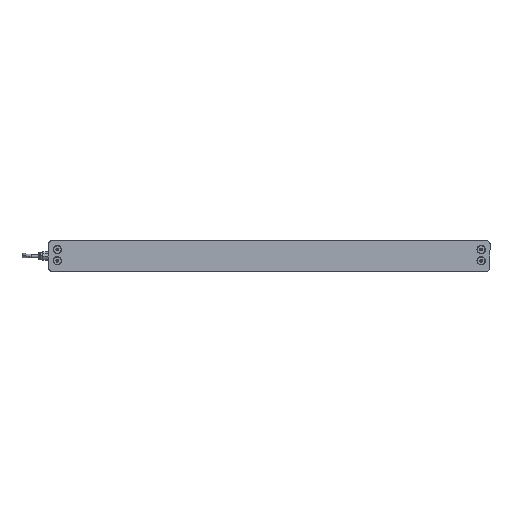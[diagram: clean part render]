
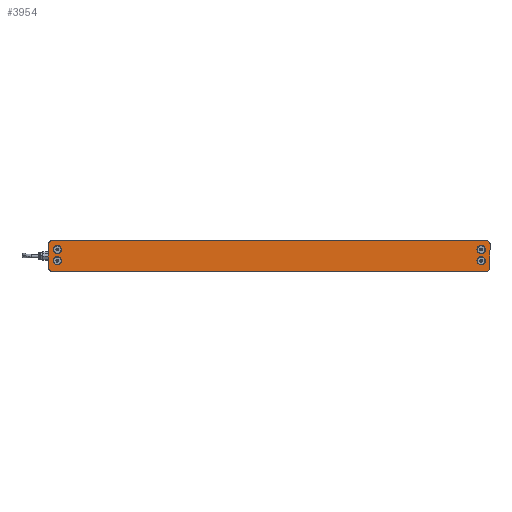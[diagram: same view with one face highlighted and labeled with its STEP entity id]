
A CAD part, left-side view. The second image highlights one B-rep face of the part: STEP entity #3954.
In plain terms, the highlighted planar face has unit normal (-1, 0, 0) as drawn and (0, 0, -1) by its records, which use the part's own axes.
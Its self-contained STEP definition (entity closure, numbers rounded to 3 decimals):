
#68 = DIRECTION ( 'NONE',  ( -1., 0., 0. ) ) ;
#292 = DIRECTION ( 'NONE',  ( -1., 0., 0. ) ) ;
#746 = VERTEX_POINT ( 'NONE', #8460 ) ;
#754 = CARTESIAN_POINT ( 'NONE',  ( -286.9, 8.5, 0. ) ) ;
#790 = EDGE_LOOP ( 'NONE', ( #1041, #5103 ) ) ;
#917 = VECTOR ( 'NONE', #4963, 1000. ) ;
#923 = EDGE_LOOP ( 'NONE', ( #3718, #8843 ) ) ;
#1041 = ORIENTED_EDGE ( 'NONE', *, *, #15722, .F. ) ;
#1164 = CARTESIAN_POINT ( 'NONE',  ( -293., 16., 0. ) ) ;
#1345 = CARTESIAN_POINT ( 'NONE',  ( -275.7, -6.3, 0. ) ) ;
#1376 = AXIS2_PLACEMENT_3D ( 'NONE', #2964, #9027, #14868 ) ;
#1732 = DIRECTION ( 'NONE',  ( -1., 0., 0. ) ) ;
#1938 = DIRECTION ( 'NONE',  ( 0., 0., -1. ) ) ;
#1998 = VERTEX_POINT ( 'NONE', #1345 ) ;
#2009 = DIRECTION ( 'NONE',  ( -1., 0., 0. ) ) ;
#2127 = VECTOR ( 'NONE', #14044, 1000. ) ;
#2204 = EDGE_CURVE ( 'NONE', #11486, #13070, #10215, .T. ) ;
#2220 = DIRECTION ( 'NONE',  ( -1., 0., 0. ) ) ;
#2420 = ORIENTED_EDGE ( 'NONE', *, *, #15041, .F. ) ;
#2697 = EDGE_CURVE ( 'NONE', #19551, #5183, #17800, .T. ) ;
#2761 = AXIS2_PLACEMENT_3D ( 'NONE', #19582, #2950, #68 ) ;
#2770 = AXIS2_PLACEMENT_3D ( 'NONE', #5096, #17175, #2220 ) ;
#2792 = DIRECTION ( 'NONE',  ( -1., 0., 0. ) ) ;
#2950 = DIRECTION ( 'NONE',  ( 0., 0., 1. ) ) ;
#2964 = CARTESIAN_POINT ( 'NONE',  ( 289., 16., 0. ) ) ;
#3021 = VERTEX_POINT ( 'NONE', #6205 ) ;
#3041 = ORIENTED_EDGE ( 'NONE', *, *, #6439, .F. ) ;
#3320 = CARTESIAN_POINT ( 'NONE',  ( 293., 16., 0. ) ) ;
#3477 = CIRCLE ( 'NONE', #14549, 5.6 ) ;
#3652 = CARTESIAN_POINT ( 'NONE',  ( 289., 20., 0. ) ) ;
#3718 = ORIENTED_EDGE ( 'NONE', *, *, #16125, .F. ) ;
#3747 = CARTESIAN_POINT ( 'NONE',  ( -289., 20., 0. ) ) ;
#3954 = ADVANCED_FACE ( 'NONE', ( #7908, #11902, #16550, #10310, #8832 ), #11997, .T. ) ;
#4316 = LINE ( 'NONE', #8889, #13196 ) ;
#4531 = CARTESIAN_POINT ( 'NONE',  ( 289., -20., 0. ) ) ;
#4642 = CIRCLE ( 'NONE', #10730, 5.6 ) ;
#4864 = VERTEX_POINT ( 'NONE', #5457 ) ;
#4963 = DIRECTION ( 'NONE',  ( 0., 1., 0. ) ) ;
#5096 = CARTESIAN_POINT ( 'NONE',  ( 281.3, 8.5, 0. ) ) ;
#5103 = ORIENTED_EDGE ( 'NONE', *, *, #2697, .F. ) ;
#5183 = VERTEX_POINT ( 'NONE', #754 ) ;
#5217 = LINE ( 'NONE', #12365, #2127 ) ;
#5457 = CARTESIAN_POINT ( 'NONE',  ( -286.9, -6.3, 0. ) ) ;
#5771 = AXIS2_PLACEMENT_3D ( 'NONE', #6512, #15418, #15516 ) ;
#5882 = VERTEX_POINT ( 'NONE', #13336 ) ;
#6080 = ORIENTED_EDGE ( 'NONE', *, *, #11827, .F. ) ;
#6139 = DIRECTION ( 'NONE',  ( -1., 0., 0. ) ) ;
#6205 = CARTESIAN_POINT ( 'NONE',  ( -289., -20., 0. ) ) ;
#6225 = VERTEX_POINT ( 'NONE', #1164 ) ;
#6346 = CARTESIAN_POINT ( 'NONE',  ( -289., 16., 0. ) ) ;
#6366 = VERTEX_POINT ( 'NONE', #3747 ) ;
#6439 = EDGE_CURVE ( 'NONE', #6225, #13449, #4316, .T. ) ;
#6512 = CARTESIAN_POINT ( 'NONE',  ( 289., -16., 0. ) ) ;
#6792 = DIRECTION ( 'NONE',  ( 0., 0., -1. ) ) ;
#7150 = AXIS2_PLACEMENT_3D ( 'NONE', #7935, #12599, #292 ) ;
#7183 = ORIENTED_EDGE ( 'NONE', *, *, #10446, .F. ) ;
#7284 = VERTEX_POINT ( 'NONE', #3652 ) ;
#7763 = CARTESIAN_POINT ( 'NONE',  ( 281.3, 8.5, 0. ) ) ;
#7833 = VERTEX_POINT ( 'NONE', #18754 ) ;
#7908 = FACE_BOUND ( 'NONE', #11932, .T. ) ;
#7935 = CARTESIAN_POINT ( 'NONE',  ( -281.3, -6.3, 0. ) ) ;
#7969 = CARTESIAN_POINT ( 'NONE',  ( 281.3, -6.3, 0. ) ) ;
#8460 = CARTESIAN_POINT ( 'NONE',  ( 275.7, -6.3, 0. ) ) ;
#8832 = FACE_OUTER_BOUND ( 'NONE', #16640, .T. ) ;
#8843 = ORIENTED_EDGE ( 'NONE', *, *, #8874, .F. ) ;
#8861 = VERTEX_POINT ( 'NONE', #3320 ) ;
#8874 = EDGE_CURVE ( 'NONE', #7833, #746, #4642, .T. ) ;
#8889 = CARTESIAN_POINT ( 'NONE',  ( -293., -16., 0. ) ) ;
#9027 = DIRECTION ( 'NONE',  ( 0., 0., -1. ) ) ;
#9088 = DIRECTION ( 'NONE',  ( 1., 0., 0. ) ) ;
#9163 = ORIENTED_EDGE ( 'NONE', *, *, #12899, .F. ) ;
#9291 = CARTESIAN_POINT ( 'NONE',  ( 289., 16., 0. ) ) ;
#9382 = LINE ( 'NONE', #10962, #15650 ) ;
#9924 = AXIS2_PLACEMENT_3D ( 'NONE', #14779, #19310, #2792 ) ;
#10171 = EDGE_LOOP ( 'NONE', ( #9163, #13953 ) ) ;
#10215 = CIRCLE ( 'NONE', #5771, 4. ) ;
#10310 = FACE_BOUND ( 'NONE', #10171, .T. ) ;
#10314 = AXIS2_PLACEMENT_3D ( 'NONE', #6346, #18612, #6139 ) ;
#10370 = CIRCLE ( 'NONE', #2761, 4. ) ;
#10446 = EDGE_CURVE ( 'NONE', #13449, #3021, #10370, .T. ) ;
#10730 = AXIS2_PLACEMENT_3D ( 'NONE', #12549, #17187, #18566 ) ;
#10962 = CARTESIAN_POINT ( 'NONE',  ( -289., -20., 0. ) ) ;
#10973 = CARTESIAN_POINT ( 'NONE',  ( -281.3, 8.5, 0. ) ) ;
#11185 = DIRECTION ( 'NONE',  ( -1., 0., 0. ) ) ;
#11486 = VERTEX_POINT ( 'NONE', #4531 ) ;
#11673 = AXIS2_PLACEMENT_3D ( 'NONE', #7969, #6792, #2009 ) ;
#11686 = DIRECTION ( 'NONE',  ( 0., -1., 0. ) ) ;
#11827 = EDGE_CURVE ( 'NONE', #3021, #11486, #9382, .T. ) ;
#11902 = FACE_BOUND ( 'NONE', #923, .T. ) ;
#11932 = EDGE_LOOP ( 'NONE', ( #2420, #13033 ) ) ;
#11997 = PLANE ( 'NONE',  #1376 ) ;
#12291 = AXIS2_PLACEMENT_3D ( 'NONE', #10973, #1938, #11185 ) ;
#12365 = CARTESIAN_POINT ( 'NONE',  ( -289., 20., 0. ) ) ;
#12406 = ORIENTED_EDGE ( 'NONE', *, *, #13371, .F. ) ;
#12549 = CARTESIAN_POINT ( 'NONE',  ( 281.3, -6.3, 0. ) ) ;
#12599 = DIRECTION ( 'NONE',  ( 0., 0., -1. ) ) ;
#12899 = EDGE_CURVE ( 'NONE', #4864, #1998, #15682, .T. ) ;
#12923 = CIRCLE ( 'NONE', #2770, 5.6 ) ;
#13033 = ORIENTED_EDGE ( 'NONE', *, *, #16014, .F. ) ;
#13070 = VERTEX_POINT ( 'NONE', #18094 ) ;
#13117 = AXIS2_PLACEMENT_3D ( 'NONE', #9291, #15320, #1732 ) ;
#13196 = VECTOR ( 'NONE', #11686, 1000. ) ;
#13336 = CARTESIAN_POINT ( 'NONE',  ( 275.7, 8.5, 0. ) ) ;
#13371 = EDGE_CURVE ( 'NONE', #6366, #6225, #14436, .T. ) ;
#13449 = VERTEX_POINT ( 'NONE', #15238 ) ;
#13627 = CARTESIAN_POINT ( 'NONE',  ( 286.9, 8.5, 0. ) ) ;
#13659 = VERTEX_POINT ( 'NONE', #13627 ) ;
#13920 = DIRECTION ( 'NONE',  ( -1., 0., 0. ) ) ;
#13953 = ORIENTED_EDGE ( 'NONE', *, *, #18108, .F. ) ;
#14044 = DIRECTION ( 'NONE',  ( -1., 0., 0. ) ) ;
#14130 = ORIENTED_EDGE ( 'NONE', *, *, #18357, .F. ) ;
#14197 = LINE ( 'NONE', #18531, #917 ) ;
#14362 = DIRECTION ( 'NONE',  ( -1., 0., 0. ) ) ;
#14436 = CIRCLE ( 'NONE', #10314, 4. ) ;
#14549 = AXIS2_PLACEMENT_3D ( 'NONE', #18996, #14552, #14362 ) ;
#14552 = DIRECTION ( 'NONE',  ( 0., 0., -1. ) ) ;
#14731 = EDGE_CURVE ( 'NONE', #7284, #6366, #5217, .T. ) ;
#14779 = CARTESIAN_POINT ( 'NONE',  ( -281.3, 8.5, 0. ) ) ;
#14868 = DIRECTION ( 'NONE',  ( -1., 0., 0. ) ) ;
#15041 = EDGE_CURVE ( 'NONE', #5882, #13659, #17315, .T. ) ;
#15238 = CARTESIAN_POINT ( 'NONE',  ( -293., -16., 0. ) ) ;
#15320 = DIRECTION ( 'NONE',  ( 0., 0., 1. ) ) ;
#15418 = DIRECTION ( 'NONE',  ( 0., 0., 1. ) ) ;
#15438 = CIRCLE ( 'NONE', #12291, 5.6 ) ;
#15516 = DIRECTION ( 'NONE',  ( 1., 0., 0. ) ) ;
#15650 = VECTOR ( 'NONE', #9088, 1000. ) ;
#15682 = CIRCLE ( 'NONE', #7150, 5.6 ) ;
#15722 = EDGE_CURVE ( 'NONE', #5183, #19551, #15438, .T. ) ;
#15953 = ORIENTED_EDGE ( 'NONE', *, *, #14731, .F. ) ;
#16014 = EDGE_CURVE ( 'NONE', #13659, #5882, #12923, .T. ) ;
#16125 = EDGE_CURVE ( 'NONE', #746, #7833, #18599, .T. ) ;
#16550 = FACE_BOUND ( 'NONE', #790, .T. ) ;
#16640 = EDGE_LOOP ( 'NONE', ( #14130, #17281, #19212, #6080, #7183, #3041, #12406, #15953 ) ) ;
#17170 = DIRECTION ( 'NONE',  ( 0., 0., -1. ) ) ;
#17175 = DIRECTION ( 'NONE',  ( 0., 0., -1. ) ) ;
#17187 = DIRECTION ( 'NONE',  ( 0., 0., -1. ) ) ;
#17281 = ORIENTED_EDGE ( 'NONE', *, *, #17417, .F. ) ;
#17315 = CIRCLE ( 'NONE', #17931, 5.6 ) ;
#17417 = EDGE_CURVE ( 'NONE', #13070, #8861, #14197, .T. ) ;
#17800 = CIRCLE ( 'NONE', #9924, 5.6 ) ;
#17931 = AXIS2_PLACEMENT_3D ( 'NONE', #7763, #17170, #13920 ) ;
#18094 = CARTESIAN_POINT ( 'NONE',  ( 293., -16., 0. ) ) ;
#18108 = EDGE_CURVE ( 'NONE', #1998, #4864, #3477, .T. ) ;
#18357 = EDGE_CURVE ( 'NONE', #8861, #7284, #19403, .T. ) ;
#18531 = CARTESIAN_POINT ( 'NONE',  ( 293., -16., 0. ) ) ;
#18532 = CARTESIAN_POINT ( 'NONE',  ( -275.7, 8.5, 0. ) ) ;
#18566 = DIRECTION ( 'NONE',  ( -1., 0., 0. ) ) ;
#18599 = CIRCLE ( 'NONE', #11673, 5.6 ) ;
#18612 = DIRECTION ( 'NONE',  ( 0., 0., 1. ) ) ;
#18754 = CARTESIAN_POINT ( 'NONE',  ( 286.9, -6.3, 0. ) ) ;
#18996 = CARTESIAN_POINT ( 'NONE',  ( -281.3, -6.3, 0. ) ) ;
#19212 = ORIENTED_EDGE ( 'NONE', *, *, #2204, .F. ) ;
#19310 = DIRECTION ( 'NONE',  ( 0., 0., -1. ) ) ;
#19403 = CIRCLE ( 'NONE', #13117, 4. ) ;
#19551 = VERTEX_POINT ( 'NONE', #18532 ) ;
#19582 = CARTESIAN_POINT ( 'NONE',  ( -289., -16., 0. ) ) ;
